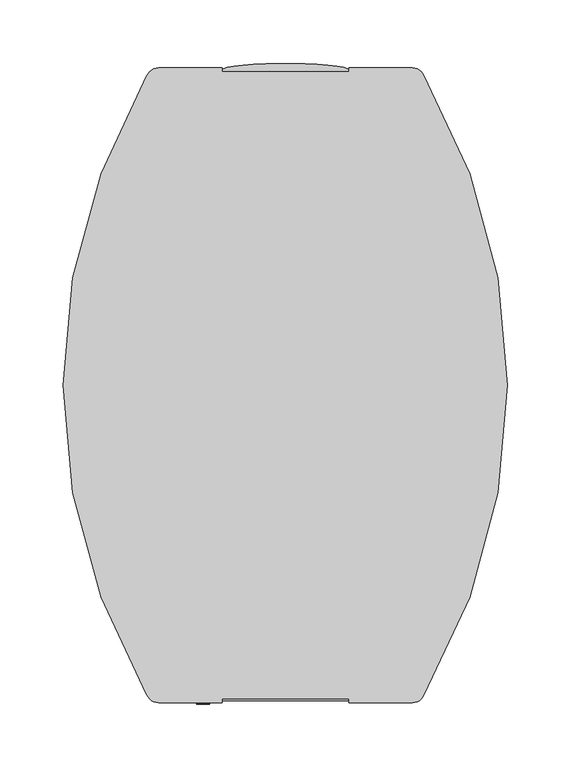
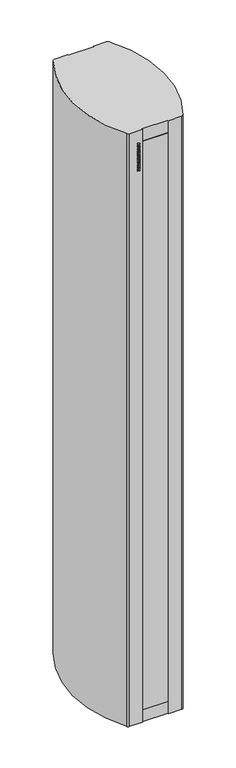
"""IFC4 building model written with IfcOpenShell, lengths in millimetres: proxy geometry, ADSK_Завеса дизайнерская_Электрическая : KVC-S25E24-31."""

from ifc_helpers import new_model, si_unit, point, frame, frame_2d, origin, origin_with_axes, place, context, project, spatial, polyline, circle_curve, ellipse_curve, trimmed, segment, composite_curve, outline, extrude, faceted_brep, source, transform, mapped, element, save
from ifc_brep_helpers import plane_surface, extruded_surface, advanced_brep


def mechanical_equipment_0e06450b(model_context):
    return source(origin(), model_context, "Body", "SolidModel", [
        extrude(outline(polyline([(2250.0784314, -70.0), (2250.0784314, -60.0), (2253.2156863, -60.0), (2253.2156863, -61.7647059), (2254.9865196, -63.7745098), (2256.8186275, -60.0), (2260.6666667, -60.0), (2257.192402, -66.2775735), (2260.4705882, -70.0), (2256.1997549, -70.0), (2253.2156863, -66.2224265), (2253.2156863, -70.0), (2250.0784314, -70.0)])), frame((0.0, -251.0, 0.0), z_axis=(0.0, 1.0, 0.0), x_axis=(0.0, 0.0, 1.0)), (0.0, 0.0, 1.0), 1.0),
        extrude(outline(polyline([(2267.6642157, -61.5686275), (2268.1176471, -60.0), (2271.4509804, -60.0), (2268.0778186, -70.0), (2264.0398284, -70.0), (2260.6666667, -60.0), (2264.0, -60.0), (2264.4319853, -61.5686275), (2267.6642157, -61.5686275)]), holes=[polyline([(2267.0698529, -63.9215686), (2265.0814951, -63.9215686), (2266.0588235, -67.4540441), (2267.0698529, -63.9215686)])]), frame((0.0, -251.0, 0.0), z_axis=(0.0, 1.0, 0.0), x_axis=(0.0, 0.0, 1.0)), (0.0, 0.0, 1.0), 1.0),
        extrude(outline(polyline([(2272.4313725, -70.0), (2272.4313725, -60.0), (2280.2745098, -60.0), (2280.2745098, -62.3529412), (2275.5686275, -62.3529412), (2275.5686275, -70.0), (2272.4313725, -70.0)])), frame((0.0, -251.0, 0.0), z_axis=(0.0, 1.0, 0.0), x_axis=(0.0, 0.0, 1.0)), (0.0, 0.0, 1.0), 1.0),
        extrude(outline(polyline([(2287.6642157, -61.5686275), (2288.1176471, -60.0), (2291.4509804, -60.0), (2288.0778186, -70.0), (2284.0398284, -70.0), (2280.6666667, -60.0), (2284.0, -60.0), (2284.4319853, -61.5686275), (2287.6642157, -61.5686275)]), holes=[polyline([(2287.0698529, -63.9215686), (2285.0814951, -63.9215686), (2286.0588235, -67.4540441), (2287.0698529, -63.9215686)])]), frame((0.0, -251.0, 0.0), z_axis=(0.0, 1.0, 0.0), x_axis=(0.0, 0.0, 1.0)), (0.0, 0.0, 1.0), 1.0),
        extrude(outline(polyline([(2291.8431373, -63.3394608), (2292.9491422, -60.8026961), (2296.4601716, -59.8039216), (2298.8560049, -60.2297794), (2300.3342525, -61.4813113), (2300.8627451, -63.28125), (2300.4675245, -64.7870711), (2299.2022059, -65.9129902), (2296.3223039, -66.8106618), (2296.1905637, -68.4313725), (2296.9641544, -68.1050858), (2297.3333333, -67.0588235), (2300.4705882, -67.2395833), (2299.2925858, -69.4883578), (2296.4172794, -70.1960784), (2293.9969363, -69.8039216), (2292.6749387, -68.7285539), (2292.2352941, -67.276348), (2293.1023284, -65.3492647), (2295.9761029, -64.1237745), (2297.7254902, -62.8186275), (2297.4114583, -62.0818015), (2296.5183824, -61.7647059), (2295.3204657, -62.3958333), (2294.9803922, -63.5294118), (2291.8431373, -63.3394608)])), frame((0.0, -251.0, 0.0), z_axis=(0.0, 1.0, 0.0), x_axis=(0.0, 0.0, 1.0)), (0.0, 0.0, 1.0), 1.0),
        extrude(outline(polyline([(2302.4313725, -70.0), (2302.4313725, -60.0), (2305.5686275, -60.0), (2305.5686275, -64.1176471), (2308.9019608, -64.1176471), (2308.9019608, -60.0), (2312.0392157, -60.0), (2312.0392157, -70.0), (2308.9019608, -70.0), (2308.9019608, -66.4705882), (2305.5686275, -66.4705882), (2305.5686275, -70.0), (2302.4313725, -70.0)])), frame((0.0, -251.0, 0.0), z_axis=(0.0, 1.0, 0.0), x_axis=(0.0, 0.0, 1.0)), (0.0, 0.0, 1.0), 1.0),
        extrude(outline(polyline([(2314.0, -70.0), (2314.0, -60.0), (2316.9411765, -60.0), (2316.9411765, -65.4901961), (2320.6666667, -60.0), (2323.6078431, -60.0), (2323.6078431, -70.0), (2320.6666667, -70.0), (2320.6666667, -64.4730392), (2316.9197304, -70.0), (2314.0, -70.0)])), frame((0.0, -251.0, 0.0), z_axis=(0.0, 1.0, 0.0), x_axis=(0.0, 0.0, 1.0)), (0.0, 0.0, 1.0), 1.0),
        extrude(outline(polyline([(-60.0, -251.0), (-70.0, -251.0), (-70.0, -250.0), (-60.0, -250.0), (-60.0, -251.0)])), frame((0.0, 0.0, 2325.7647059), z_axis=(0.0, 0.0, 1.0), x_axis=(1.0, 0.0, 0.0)), (0.0, 0.0, 1.0), 3.1372549),
        extrude(outline(polyline([(2331.0588235, -70.0), (2331.0588235, -60.0), (2334.1960784, -60.0), (2334.1960784, -61.7647059), (2335.9669118, -63.7745098), (2337.7990196, -60.0), (2341.6470588, -60.0), (2338.1727941, -66.2775735), (2341.4509804, -70.0), (2337.1801471, -70.0), (2334.1960784, -66.2224265), (2334.1960784, -70.0), (2331.0588235, -70.0)])), frame((0.0, -251.0, 0.0), z_axis=(0.0, 1.0, 0.0), x_axis=(0.0, 0.0, 1.0)), (0.0, 0.0, 1.0), 1.0),
        extrude(outline(polyline([(2342.2352941, -64.9938725), (2342.9261642, -62.0603554), (2344.7291667, -60.346201), (2347.5386029, -59.8039216), (2350.3250613, -60.4304534), (2352.036152, -62.1859681), (2352.627451, -65.0765931), (2351.2732843, -68.8495711), (2347.4129902, -70.1960784), (2343.6032475, -68.8250613), (2342.2352941, -64.9938725)]), holes=[polyline([(2345.372549, -64.9938725), (2345.9301471, -67.1813725), (2347.4068627, -67.8431373), (2348.9295343, -67.1920956), (2349.4901961, -65.1286765), (2348.9525123, -62.8048407), (2347.4344363, -62.1568627), (2345.9270833, -62.8186275), (2345.372549, -64.9938725)])]), frame((0.0, -251.0, 0.0), z_axis=(0.0, 1.0, 0.0), x_axis=(0.0, 0.0, 1.0)), (0.0, 0.0, 1.0), 1.0),
        extrude(outline(polyline([(2353.4117647, -70.0), (2357.1280637, -60.0), (2360.4583333, -60.0), (2364.1960784, -70.0), (2360.8627451, -70.0), (2358.8039216, -62.8033088), (2356.7420343, -70.0), (2353.4117647, -70.0)])), frame((0.0, -251.0, 0.0), z_axis=(0.0, 1.0, 0.0), x_axis=(0.0, 0.0, 1.0)), (0.0, 0.0, 1.0), 1.0),
        faceted_brep([(50.0, -247.0, 2364.0), (-50.0, -247.0, 2364.0), (-50.0, -248.5, 2364.0), (50.0, -248.5, 2364.0), (50.0, -247.0, 50.0), (50.0, -248.5, 50.0), (-50.0, -248.5, 50.0), (-50.0, -247.0, 50.0)], [[[0, 1, 2, 3]], [[4, 5, 6, 7]], [[1, 0, 4, 7]], [[2, 1, 7, 6]], [[3, 2, 6, 5]], [[0, 3, 5, 4]]]),
        advanced_brep(
        [(-50.0, 248.5, 2364.0), (-50.0, 247.0, 2364.0), (50.0, 247.0, 2364.0), (50.0, 248.5, 2364.0), (-50.0, 248.5, 50.0), (50.0, 248.5, 50.0), (50.0, 247.0, 50.0), (-50.0, 247.0, 50.0)],
        [
            (0, 1),
            (1, 2),
            (2, 3),
            (3, 0, ellipse_curve(frame((0.0, 248.5, 2364.0), z_axis=(0.0, 0.0, 1.0), x_axis=(-1.0, 0.0, 0.0)), 50.0, 5.0)),
            (4, 5, ellipse_curve(frame((0.0, 248.5, 50.0), z_axis=(0.0, 0.0, -1.0), x_axis=(-1.0, 0.0, 0.0)), 50.0, 5.0)),
            (5, 6),
            (6, 7),
            (7, 4),
            (0, 4),
            (7, 1),
            (6, 2),
            (5, 3),
        ],
        [
            plane_surface(frame((-50.0, -247.0, 2364.0), z_axis=(0.0, 0.0, 1.0), x_axis=(-1.0, 0.0, 0.0))),
            plane_surface(frame((-50.0, -247.0, 50.0), z_axis=(0.0, 0.0, -1.0), x_axis=(1.0, 0.0, 0.0))),
            plane_surface(frame((-50.0, 248.5, 2364.0), z_axis=(-1.0, 0.0, 0.0), x_axis=(0.0, 0.0, -1.0))),
            plane_surface(frame((-50.0, 247.0, 2364.0), z_axis=(0.0, -1.0, 0.0), x_axis=(0.0, 0.0, -1.0))),
            plane_surface(frame((50.0, 247.0, 2364.0), z_axis=(1.0, 0.0, 0.0), x_axis=(0.0, 0.0, -1.0))),
            extruded_surface(trimmed(ellipse_curve(frame((0.0, 248.5, -2314.0), z_axis=(0.0, 0.0, 1.0), x_axis=(-1.0, 0.0, 0.0)), 50.0, 5.0), [point((50.0, 248.5, -2314.0))], [point((-50.0, 248.5, -2314.0))], True, "CARTESIAN"), (0.0, 0.0, 2314.0), 2314.0),
        ],
        [
            (0, [[1, 2, 3, 4]]),
            (1, [[5, 6, 7, 8]]),
            (2, [[-1, 9, -8, 10]]),
            (3, [[-2, -10, -7, 11]]),
            (4, [[-3, -11, -6, 12]]),
            (5, [[-4, -12, -5, -9]]),
        ],
    ),
        extrude(outline(composite_curve([segment(polyline([(-50.0, 250.0), (-50.0, 247.0), (50.0, 247.0), (50.0, 250.0), (100.0, 250.0)]), True, "CONTINUOUS"), segment(trimmed(circle_curve(frame_2d((100.0, 240.0)), 10.0), [point((100.0, 250.0))], [point((109.287324, 243.7075077))], False, "CARTESIAN"), True, "CONTINUOUS"), segment(trimmed(circle_curve(frame_2d((-309.7733265, 0.0)), 484.7733265), [point((109.287324, 243.7075077))], [point((109.287324, -243.7075077))], False, "CARTESIAN"), True, "CONTINUOUS"), segment(trimmed(circle_curve(frame_2d((100.0, -240.0)), 10.0), [point((109.287324, -243.7075077))], [point((100.0, -250.0))], False, "CARTESIAN"), True, "CONTINUOUS"), segment(polyline([(100.0, -250.0), (50.0, -250.0), (50.0, -247.0), (-50.0, -247.0), (-50.0, -250.0), (-100.0, -250.0)]), True, "CONTINUOUS"), segment(trimmed(circle_curve(frame_2d((-100.0, -240.0)), 10.0), [point((-100.0, -250.0))], [point((-109.287324, -243.7075077))], False, "CARTESIAN"), True, "CONTINUOUS"), segment(trimmed(circle_curve(frame_2d((309.7733265, 0.0)), 484.7733265), [point((-109.287324, -243.7075077))], [point((-109.287324, 243.7075077))], False, "CARTESIAN"), True, "CONTINUOUS"), segment(trimmed(circle_curve(frame_2d((-100.0, 240.0)), 10.0), [point((-109.287324, 243.7075077))], [point((-100.0, 250.0))], False, "CARTESIAN"), True, "CONTINUOUS"), segment(polyline([(-100.0, 250.0), (-50.0, 250.0)]), True, "CONTINUOUS")], self_intersect=False)), origin_with_axes(), (0.0, 0.0, 1.0), 2414.0),
    ])


if __name__ == "__main__":
    model = new_model("IFC4")
    model_context = context("Model", 3, world=origin())
    ifc_project = project(units=[si_unit("LENGTHUNIT", "METRE", prefix="MILLI")], contexts=[model_context])
    site = spatial("IfcSite", under=ifc_project)
    building = spatial("IfcBuilding", under=site)
    placement = place(None, origin())
    mechanical_equipment_shape = mechanical_equipment_0e06450b(model_context)
    element("IfcBuildingElementProxy", 1, Name="ADSK_Завеса дизайнерская_Электрическая : KVC-S25E24-31", ObjectType="ADSK_Завеса дизайнерская_Электрическая : KVC-S25E24-31", at=placement, inside=building, context=model_context, shape_type="MappedRepresentation", body=[
        mapped(mechanical_equipment_shape, transform((0.0, 0.0, 0.0), x_axis=(1.0, 0.0, 0.0), y_axis=(0.0, 1.0, 0.0), z_axis=(0.0, 0.0, 1.0))),
    ])
    save(model, "model.ifc")
